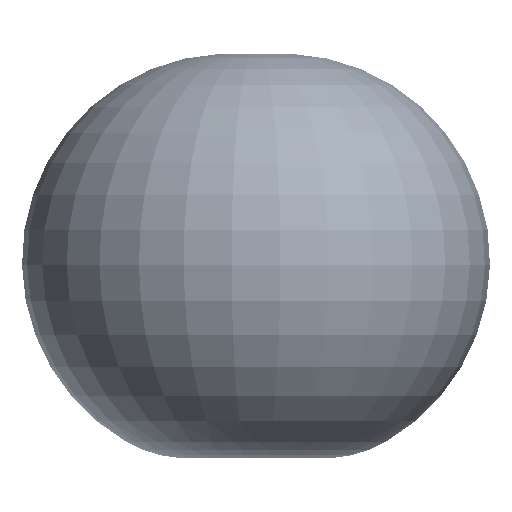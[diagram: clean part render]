
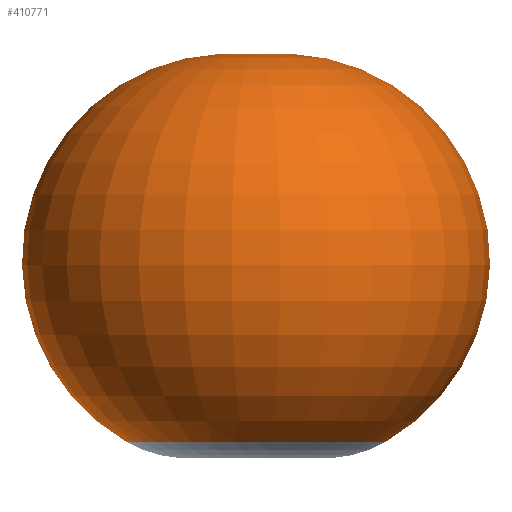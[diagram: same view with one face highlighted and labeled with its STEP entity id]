
A CAD part, left-side view. The second image highlights one B-rep face of the part: STEP entity #410771.
In plain terms, the highlighted toroidal (fillet/blend) face has major radius 180 mm and minor radius 1434.94 mm.
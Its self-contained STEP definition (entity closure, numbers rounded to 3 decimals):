
#1117 = ORIENTED_EDGE ( 'NONE', *, *, #404636, .F. ) ;
#13969 = CARTESIAN_POINT ( 'NONE',  ( 0., -805.694, 0. ) ) ;
#21228 = ORIENTED_EDGE ( 'NONE', *, *, #168485, .F. ) ;
#43986 = DIRECTION ( 'NONE',  ( 0., 0., -1. ) ) ;
#67954 = CIRCLE ( 'NONE', #274338, 1434.94 ) ;
#79309 = DIRECTION ( 'NONE',  ( 0., -1., 0. ) ) ;
#82975 = CIRCLE ( 'NONE', #149463, 1434.94 ) ;
#89460 = ORIENTED_EDGE ( 'NONE', *, *, #293037, .T. ) ;
#121927 = CARTESIAN_POINT ( 'NONE',  ( 0., -805.694, 897.47 ) ) ;
#149463 = AXIS2_PLACEMENT_3D ( 'NONE', #303517, #334820, #362008 ) ;
#158038 = AXIS2_PLACEMENT_3D ( 'NONE', #13969, #239133, #266367 ) ;
#166239 = CARTESIAN_POINT ( 'NONE',  ( 0., 1860.606, 0. ) ) ;
#168485 = EDGE_CURVE ( 'NONE', #378023, #227194, #82975, .T. ) ;
#169036 = FACE_OUTER_BOUND ( 'NONE', #405962, .T. ) ;
#196536 = TOROIDAL_SURFACE ( 'NONE', #336235, 180., 1434.94 ) ;
#217479 = DIRECTION ( 'NONE',  ( 0., 0., -1. ) ) ;
#227194 = VERTEX_POINT ( 'NONE', #361022 ) ;
#239133 = DIRECTION ( 'NONE',  ( 0., -1., 0. ) ) ;
#266367 = DIRECTION ( 'NONE',  ( 0., 0., -1. ) ) ;
#271326 = VERTEX_POINT ( 'NONE', #121927 ) ;
#274338 = AXIS2_PLACEMENT_3D ( 'NONE', #317513, #384213, #217479 ) ;
#293037 = EDGE_CURVE ( 'NONE', #378023, #271326, #67954, .T. ) ;
#303517 = CARTESIAN_POINT ( 'NONE',  ( 0., 437., -180. ) ) ;
#317513 = CARTESIAN_POINT ( 'NONE',  ( 0., 437., 180. ) ) ;
#334820 = DIRECTION ( 'NONE',  ( -1., 0., 0. ) ) ;
#336235 = AXIS2_PLACEMENT_3D ( 'NONE', #392318, #79309, #43986 ) ;
#337889 = CIRCLE ( 'NONE', #158038, 897.47 ) ;
#361022 = CARTESIAN_POINT ( 'NONE',  ( 0., -805.694, -897.47 ) ) ;
#362008 = DIRECTION ( 'NONE',  ( 0., 0., 1. ) ) ;
#378023 = VERTEX_POINT ( 'NONE', #166239 ) ;
#384213 = DIRECTION ( 'NONE',  ( 1., 0., 0. ) ) ;
#392318 = CARTESIAN_POINT ( 'NONE',  ( 0., 437., 0. ) ) ;
#404636 = EDGE_CURVE ( 'NONE', #227194, #271326, #337889, .T. ) ;
#405962 = EDGE_LOOP ( 'NONE', ( #21228, #89460, #1117 ) ) ;
#410771 = ADVANCED_FACE ( 'NONE', ( #169036 ), #196536, .T. ) ;
